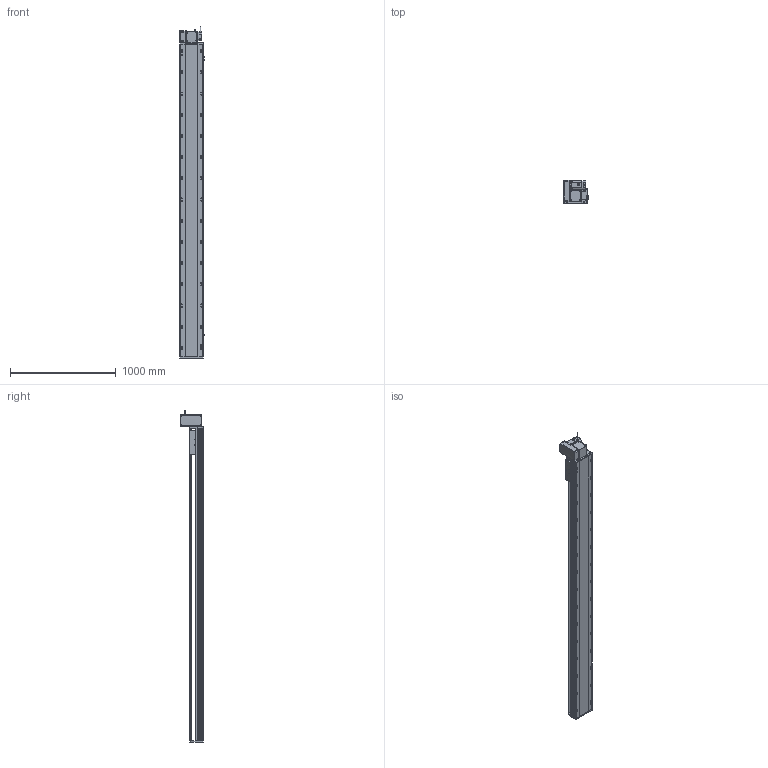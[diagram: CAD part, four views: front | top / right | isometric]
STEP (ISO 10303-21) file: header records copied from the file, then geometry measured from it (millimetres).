
FILE_DESCRIPTION (( 'STEP AP214' ), '1' );
FILE_NAME ('RTB22S-XX-2600-LW-M75-C4.STEP', '2025-12-12T06:04:11', ( '' ), ( '' ), 'SwSTEP 2.0', 'SolidWorks 2018', '' );
FILE_SCHEMA (( 'AUTOMOTIVE_DESIGN' ));
Length unit declared in the file: millimetre
Products named in the file (14): RTB22S-GY-018P^RTB22S-LW-々湍釱蚾饜_RTB22S-XX-XX-LW-M75-C4; RTB22S-GY-005P^RTB22S-LW-々湍釱蚾饜_RTB22S-XX-XX-LW-M75-C4; RTB22S-XX-2600-LW-M75-C4; RTB22S-GY-017P^RTB22S-LW-々湍釱蚾饜_RTB22S-XX-XX-LW-M75-C4; OMRON EE-SX672 传感器^RTB22S-XX-XX-LW-M75-C4; RTB22S-GY-001耜裔^RTB22S-XX-XX-LW-M75-C4; RTB22S-GY-014--々湍釱^RTB22S-LW-々湍釱蚾饜_RTB22S-XX-XX-LW-M75-C4; RTB22S-GY-007奻裔^RTB22S-XX-XX-LW-M75-C4; RTB22S-L-011菁釱^RTB22S-XX-XX-LW-M75-C4; RTB22S-LW-々湍釱蚾饜^RTB22S-XX-XX-LW-M75-C4; 750W萇儂^RTB22S-XX-XX-LW-M75-C4; RTH22-GY-013外置感应片^RTB22S-XX-XX-LW-M75-C4; RTB22S-GY-008-M75--萇儂啣^RTB22S-LW-々湍釱蚾饜_RTB22S-XX-XX-LW-M75-C4; RTB22S-L-004賑釱^RTB22S-XX-XX-LW-M75-C4
Assembly tree (16 placements, depth 3):
  RTB22S-XX-2600-LW-M75-C4
    RTB22S-L-011菁釱^RTB22S-XX-XX-LW-M75-C4
    RTB22S-GY-001耜裔^RTB22S-XX-XX-LW-M75-C4
    750W萇儂^RTB22S-XX-XX-LW-M75-C4
    RTB22S-GY-007奻裔^RTB22S-XX-XX-LW-M75-C4
    RTB22S-L-004賑釱^RTB22S-XX-XX-LW-M75-C4
    RTH22-GY-013外置感应片^RTB22S-XX-XX-LW-M75-C4
    OMRON EE-SX672 传感器^RTB22S-XX-XX-LW-M75-C4  x3
    RTB22S-LW-々湍釱蚾饜^RTB22S-XX-XX-LW-M75-C4
      RTB22S-GY-014--々湍釱^RTB22S-LW-々湍釱蚾饜_RTB22S-XX-XX-LW-M75-C4
      RTB22S-GY-017P^RTB22S-LW-々湍釱蚾饜_RTB22S-XX-XX-LW-M75-C4  x2
      RTB22S-GY-005P^RTB22S-LW-々湍釱蚾饜_RTB22S-XX-XX-LW-M75-C4
      RTB22S-GY-008-M75--萇儂啣^RTB22S-LW-々湍釱蚾饜_RTB22S-XX-XX-LW-M75-C4
      RTB22S-GY-018P^RTB22S-LW-々湍釱蚾饜_RTB22S-XX-XX-LW-M75-C4
Bounding box: 238.5 x 215.5 x 3132.2 mm (x, y, z)
Volume: 39932827.6 mm3; surface area: 4079191.4 mm2
Topology: 15 solids, 15 shells, 2109 faces, 5736 edges, 3662 vertices
Faces by surface type: plane 929, cylinder 706, bspline 296, cone 166, sphere 8, torus 4
Entity records: 57374 total; most frequent: CARTESIAN_POINT 16208, ORIENTED_EDGE 8204, DIRECTION 8016, EDGE_CURVE 4102, AXIS2_PLACEMENT_3D 2874, VERTEX_POINT 2666, VECTOR 2268, LINE 2268
